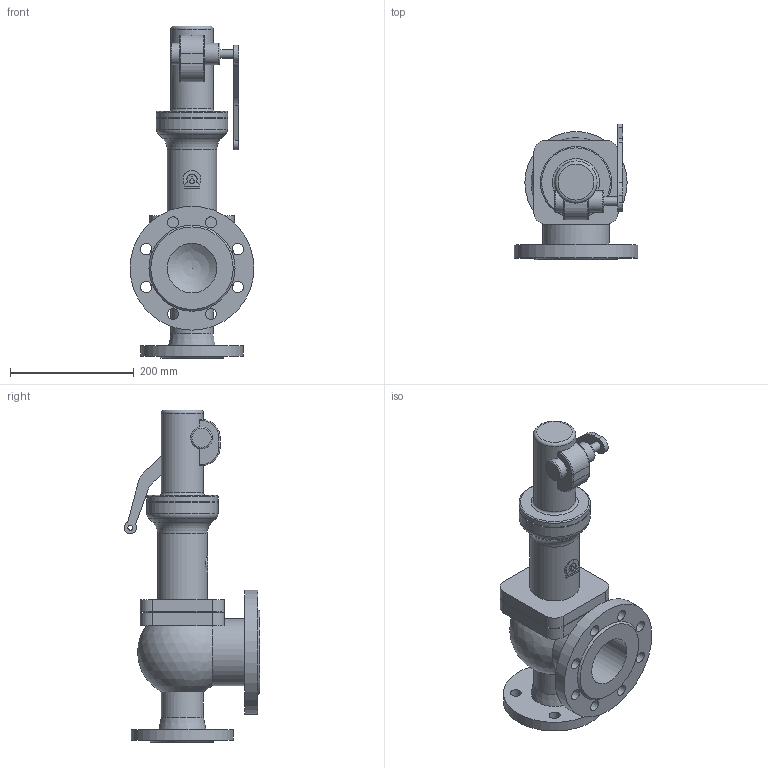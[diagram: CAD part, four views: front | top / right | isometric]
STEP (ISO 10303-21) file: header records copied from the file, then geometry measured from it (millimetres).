
FILE_DESCRIPTION(('STEP AP203'), '1');
FILE_NAME('Êëàïàí ïðåäîõðàíèòåëüíûé ïîëíîïîäüåìíûé SV2F DN50x80', '', ('UNSPECIFIED'), ('UNSPECIFIED'), 'ASCON STEP Converter 1.6', 'ASCON Math Kernel', '');
FILE_SCHEMA(('CONFIG_CONTROL_DESIGN'));
Length unit declared in the file: millimetre
Bounding box: 200 x 218.96 x 536 mm (x, y, z)
Volume: 4449357.1 mm3; surface area: 413086 mm2
Topology: 1 solids, 1 shells, 133 faces, 363 edges, 245 vertices
Faces by surface type: plane 58, cylinder 57, torus 11, cone 5, sphere 2
Full cylindrical faces by diameter (mm): 8 x1, 14 x1, 18 x12, 35 x2, 50 x1, 68 x2, 80 x2, 104.192 x1, 108 x1, 115 x2, 123.802 x1, 165 x1, 200 x1
Entity records: 6216 total; most frequent: CARTESIAN_POINT 1733, DIRECTION 734, ORIENTED_EDGE 640, EDGE_CURVE 320, AXIS2_PLACEMENT_3D 307, VERTEX_POINT 244, EDGE_LOOP 214, FACE_BOUND 174
